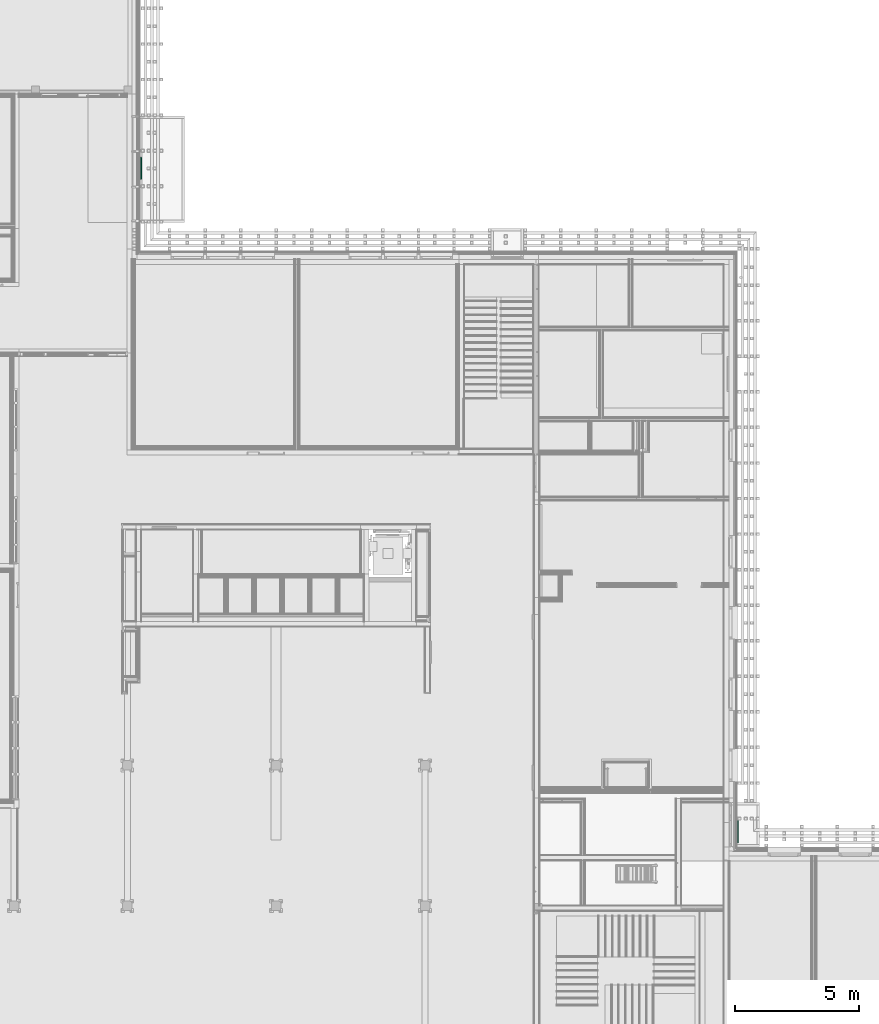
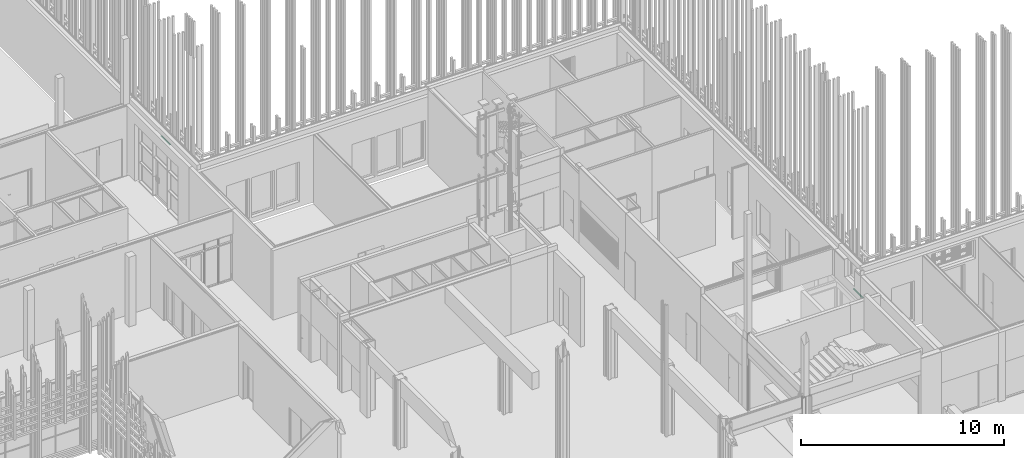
# One storey, part 259 of 260: 2 flow terminals.
"""IFC2X3 building model written with IfcOpenShell, lengths in millimetres."""

from ifc_helpers import new_model, entity, si_unit, converted_unit, derived_unit, money_unit, direction, frame, origin_with_axes, place, context, subcontext, project, spatial, open_shell, faceted_brep, surface_model, source, transform, mapped, type_object, element, save


model = new_model("IFC2X3")

# Units and contexts
model_context = context("Model", 3, precision=0.01, world=origin_with_axes(), true_north=direction((0.0, 1.0)))
body_context = subcontext(model_context, "Body", "Model", "MODEL_VIEW")
ifc_project = project(units=[si_unit("LENGTHUNIT", "METRE", prefix="MILLI"), si_unit("AREAUNIT", "SQUARE_METRE"), si_unit("VOLUMEUNIT", "CUBIC_METRE"), converted_unit("PLANEANGLEUNIT", "DEGREE", entity("IfcPlaneAngleMeasure", 0.0174532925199), si_unit("PLANEANGLEUNIT", "RADIAN"), dimensions=[0, 0, 0, 0, 0, 0, 0]), money_unit("EUR"), converted_unit("TIMEUNIT", "Year", entity("IfcTimeMeasure", 31556926.0), si_unit("TIMEUNIT", "SECOND"), dimensions=[0, 0, 1, 0, 0, 0, 0]), si_unit("MASSUNIT", "GRAM", prefix="KILO"), si_unit("THERMODYNAMICTEMPERATUREUNIT", "DEGREE_CELSIUS"), si_unit("LUMINOUSINTENSITYUNIT", "LUMEN"), si_unit("ENERGYUNIT", "JOULE", prefix="MEGA"), derived_unit("THERMALCONDUCTANCEUNIT", [(si_unit("POWERUNIT", "WATT"), 1), (si_unit("LENGTHUNIT", "METRE"), -1), (si_unit("THERMODYNAMICTEMPERATUREUNIT", "KELVIN"), -1)]), derived_unit("SPECIFICHEATCAPACITYUNIT", [(si_unit("ENERGYUNIT", "JOULE"), 1), (si_unit("MASSUNIT", "GRAM", prefix="KILO"), -1), (si_unit("THERMODYNAMICTEMPERATUREUNIT", "KELVIN"), -1)]), derived_unit("MASSDENSITYUNIT", [(si_unit("MASSUNIT", "GRAM", prefix="KILO"), 1), (si_unit("VOLUMEUNIT", "CUBIC_METRE"), -1)])], contexts=[model_context])

# Site, building, storey
site_placement = place(None, origin_with_axes())
site = spatial("IfcSite", under=ifc_project, at=site_placement, Name="Kolde pst 67a", CompositionType="ELEMENT")
building_placement = place(site_placement, origin_with_axes())
building = spatial("IfcBuilding", under=site, at=building_placement, Name="Riigigümnaasium", CompositionType="ELEMENT")
storey_placement = place(building_placement, origin_with_axes())
storey = spatial("IfcBuildingStorey", under=building, at=storey_placement, Name="1. korrus", CompositionType="ELEMENT", Elevation=0.0)

# Flow terminals
light_fixture_type = type_object("IfcLightFixtureType", Name="Fluorescent Wall Lamp 25", PredefinedType="NOTDEFINED")
shared_shape = source(origin_with_axes(), body_context, "Body", "SurfaceModel", [
    faceted_brep([(2.23517426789e-07, 0.75144626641, -43.3137645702), (10.0, 0.238712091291, -44.2020916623), (10.0, -0.0554958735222, -42.5341171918), (2.23517426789e-07, 0.573529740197, -42.3050895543), (2.23517426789e-07, 1.09962690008, -43.7284351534), (10.0, 0.983608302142, -45.0892361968), (20.0, 0.238712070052, -44.2020917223), (20.0, -0.0554958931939, -42.5341171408), (10.0, -0.0566127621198, -3.96036039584), (2.23517426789e-07, 0.572426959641, -4.21857937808), (2.23517426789e-07, 0.977545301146, -2.19986807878), (2.23517426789e-07, 1.95560602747, -1.36367512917), (2.23517426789e-07, 7.65600668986, -1.36367512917), (2.23517426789e-07, 8.63406749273, -2.19986814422), (2.23517426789e-07, 9.03919358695, -4.2186167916), (2.23517426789e-07, 9.03919358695, -31.3320880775), (2.23517426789e-07, 7.63507425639, -36.351899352), (2.23517426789e-07, 1.61167552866, -43.5416117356), (10.0, 1.83048373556, -44.7802496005), (20.0, 0.983608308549, -45.0892361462), (51.0588235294, 0.238712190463, -44.2020920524), (51.0588235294, -0.0554958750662, -42.5341171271), (20.0, -0.0566127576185, -3.96036036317), (10.0, 0.496104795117, -1.20615979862), (10.0, 1.83048373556, -0.0653326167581), (10.0, 7.78112898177, -0.0653326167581), (10.0, 9.11550792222, -1.20615979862), (10.0, 9.66822583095, -3.96036039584), (10.0, 9.66822583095, -31.6799734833), (10.0, 8.09567972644, -37.3019206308), (20.0, 1.83048376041, -44.7802496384), (51.0588235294, 0.983608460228, -45.0892361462), (856.941176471, 0.238712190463, -44.2020920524), (856.941176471, -0.0554958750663, -42.5341171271), (51.0588235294, -0.0566129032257, -3.96036022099), (20.0, 0.496104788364, -1.20615982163), (20.0, 1.83048376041, -0.065332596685), (20.0, 7.78112896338, -0.065332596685), (20.0, 9.11550793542, -1.20615982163), (20.0, 9.66822580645, -3.96036036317), (20.0, 9.66822580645, -31.6799735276), (20.0, 8.09567972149, -37.3019206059), (51.0588235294, 1.83048387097, -44.7802497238), (856.941176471, 0.983608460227, -45.0892361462), (888.0, 0.238712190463, -44.2020920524), (888.0, -0.0554958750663, -42.5341171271), (856.941176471, -0.0566129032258, -3.96036022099), (51.0588235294, 0.49610494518, -1.20615977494), (51.0588235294, 1.83048387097, -0.065332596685), (51.0588235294, 7.78112903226, -0.065332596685), (51.0588235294, 9.11550795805, -1.20615977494), (51.0588235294, 9.66822580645, -3.96036022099), (51.0588235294, 9.66822580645, -31.6799734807), (51.0588235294, 8.09567975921, -37.3019203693), (856.941176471, 1.83048387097, -44.7802497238), (888.0, 0.983608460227, -45.0892361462), (898.0, 0.238712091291, -44.2020916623), (898.0, -0.0554958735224, -42.5341171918), (888.0, -0.0566129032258, -3.96036022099), (856.941176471, 0.49610494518, -1.20615977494), (856.941176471, 1.83048387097, -0.0653325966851), (856.941176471, 7.78112903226, -0.0653325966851), (856.941176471, 9.11550795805, -1.20615977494), (856.941176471, 9.66822580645, -3.96036022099), (856.941176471, 9.66822580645, -31.6799734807), (856.941176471, 8.09567975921, -37.3019203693), (888.0, 1.83048387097, -44.7802497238), (898.0, 0.983608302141, -45.0892361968), (907.999999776, 0.75144626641, -43.3137645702), (907.999999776, 0.573529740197, -42.3050895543), (898.0, -0.05661276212, -3.96036039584), (888.0, 0.49610494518, -1.20615977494), (888.0, 1.83048387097, -0.0653325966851), (888.0, 7.78112903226, -0.0653325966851), (888.0, 9.11550795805, -1.20615977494), (888.0, 9.66822580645, -3.96036022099), (888.0, 9.66822580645, -31.6799734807), (888.0, 8.09567975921, -37.3019203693), (898.0, 1.83048373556, -44.7802496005), (907.999999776, 1.09962690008, -43.7284351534), (907.999999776, 1.61167552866, -43.5416117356), (907.999999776, 7.63507425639, -36.351899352), (907.999999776, 9.03919358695, -31.3320880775), (907.999999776, 9.03919358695, -4.2186167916), (907.999999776, 8.63406749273, -2.19986814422), (907.999999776, 7.65600668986, -1.36367512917), (907.999999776, 1.95560602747, -1.36367512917), (907.999999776, 0.977545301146, -2.19986807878), (907.999999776, 0.572426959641, -4.21857937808), (898.0, 0.496104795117, -1.20615979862), (898.0, 1.83048373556, -0.0653326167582), (898.0, 7.78112898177, -0.0653326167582), (898.0, 9.11550792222, -1.20615979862), (898.0, 9.66822583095, -3.96036039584), (898.0, 9.66822583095, -31.6799734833), (898.0, 8.09567972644, -37.3019206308)], [[[0, 1, 2, 3]], [[4, 5, 1, 0]], [[1, 6, 7, 2]], [[2, 8, 9, 3]], [[4, 0, 3, 9, 10, 11, 12, 13, 14, 15, 16, 17]], [[5, 4, 17, 18]], [[5, 19, 6, 1]], [[7, 6, 20, 21]], [[8, 2, 7, 22]], [[9, 8, 23, 10]], [[23, 24, 11, 10]], [[12, 11, 24, 25]], [[13, 12, 25, 26]], [[27, 14, 13, 26]], [[14, 27, 28, 15]], [[29, 16, 15, 28]], [[17, 16, 29, 18]], [[18, 30, 19, 5]], [[6, 19, 31, 20]], [[21, 20, 32, 33]], [[22, 7, 21, 34]], [[8, 22, 35, 23]], [[23, 35, 36, 24]], [[24, 36, 37, 25]], [[26, 25, 37, 38]], [[39, 27, 26, 38]], [[40, 28, 27, 39]], [[41, 29, 28, 40]], [[30, 18, 29, 41]], [[19, 30, 42, 31]], [[43, 32, 20, 31]], [[32, 44, 45, 33]], [[34, 21, 33, 46]], [[35, 22, 34, 47]], [[36, 35, 47, 48]], [[37, 36, 48, 49]], [[38, 37, 49, 50]], [[39, 38, 50, 51]], [[40, 39, 51, 52]], [[41, 40, 52, 53]], [[30, 41, 53, 42]], [[31, 42, 54, 43]], [[32, 43, 55, 44]], [[45, 44, 56, 57]], [[45, 58, 46, 33]], [[34, 46, 59, 47]], [[47, 59, 60, 48]], [[60, 61, 49, 48]], [[61, 62, 50, 49]], [[51, 50, 62, 63]], [[52, 51, 63, 64]], [[53, 52, 64, 65]], [[42, 53, 65, 54]], [[55, 43, 54, 66]], [[44, 55, 67, 56]], [[57, 56, 68, 69]], [[58, 45, 57, 70]], [[46, 58, 71, 59]], [[71, 72, 60, 59]], [[61, 60, 72, 73]], [[62, 61, 73, 74]], [[74, 75, 63, 62]], [[76, 64, 63, 75]], [[77, 65, 64, 76]], [[54, 65, 77, 66]], [[55, 66, 78, 67]], [[56, 67, 79, 68]], [[79, 80, 81, 82, 83, 84, 85, 86, 87, 88, 69, 68]], [[70, 57, 69, 88]], [[71, 58, 70, 89]], [[72, 71, 89, 90]], [[73, 72, 90, 91]], [[74, 73, 91, 92]], [[75, 74, 92, 93]], [[76, 75, 93, 94]], [[77, 76, 94, 95]], [[66, 77, 95, 78]], [[67, 78, 80, 79]], [[80, 78, 95, 81]], [[95, 94, 82, 81]], [[94, 93, 83, 82]], [[83, 93, 92, 84]], [[85, 84, 92, 91]], [[86, 85, 91, 90]], [[90, 89, 87, 86]], [[70, 88, 87, 89]]]),
    faceted_brep([(10.0, 34.3597091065, -27.0838408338), (10.0, 35.0415462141, -31.3059233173), (20.0, 35.0415462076, -31.3059233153), (20.0, 34.3597090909, -27.083840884), (2.23517426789e-07, 35.5009438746, -30.4056722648), (2.23517426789e-07, 34.9269818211, -26.8515753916), (10.0, 36.7592421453, -33.4981020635), (20.0, 36.7592421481, -33.4981020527), (888.0, 35.0415462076, -31.3059233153), (888.0, 34.3597090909, -27.083840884), (10.0, 34.3597091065, -6.55704529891), (20.0, 34.3597090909, -6.55704530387), (2.23517426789e-07, 36.9467850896, -32.2509012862), (2.23517426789e-07, 34.9269818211, -6.81530168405), (2.23517426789e-07, 35.6246325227, -2.960419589), (2.23517426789e-07, 37.3089424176, -1.3636446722), (2.23517426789e-07, 66.1308860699, -1.35586521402), (2.23517426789e-07, 68.304242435, -4.16886775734), (2.23517426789e-07, 77.099710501, -37.7314725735), (2.23517426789e-07, 77.383536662, -41.7010662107), (2.23517426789e-07, 76.4666485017, -44.8160661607), (2.23517426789e-07, 74.7524015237, -45.7053852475), (10.0, 74.7722181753, -47.026382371), (20.0, 74.7722181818, -47.0263823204), (888.0, 36.7592421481, -33.4981020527), (898.0, 35.0415462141, -31.3059233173), (898.0, 34.3597091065, -27.0838408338), (888.0, 34.3597090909, -6.55704530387), (10.0, 35.1904607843, -1.96671125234), (20.0, 35.1904607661, -1.9667112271), (10.0, 37.1960727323, -0.0653326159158), (10.0, 66.2801454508, -0.0574824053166), (10.0, 68.7137454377, -3.20732154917), (10.0, 77.642009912, -37.2766638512), (10.0, 77.9796917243, -41.9994828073), (10.0, 76.8114341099, -45.9684755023), (20.0, 76.811434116, -45.968475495), (20.0, 34.8645818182, -20.6440618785), (20.0, 34.8724148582, -26.6697671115), (20.0, 35.368611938, -30.3946225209), (20.0, 36.8386909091, -32.3551116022), (20.0, 74.8520388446, -45.8779044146), (20.0, 76.5254050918, -45.0073263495), (20.0, 77.4835265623, -41.7489044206), (20.0, 77.2058181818, -37.8730674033), (20.0, 70.2113454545, -11.1921281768), (888.0, 36.8386909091, -32.3551116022), (898.0, 36.7592421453, -33.4981020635), (907.999999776, 35.5009438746, -30.4056722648), (907.999999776, 34.9269818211, -26.8515753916), (898.0, 34.3597091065, -6.55704529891), (888.0, 35.1904607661, -1.9667112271), (20.0, 37.1960727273, -0.065332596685), (20.0, 66.2801454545, -0.0574823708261), (20.0, 68.7137454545, -3.20732154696), (20.0, 77.6420099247, -37.2766638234), (20.0, 77.9796917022, -41.9994827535), (888.0, 76.811434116, -45.968475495), (888.0, 74.7722181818, -47.0263823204), (888.0, 34.8645818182, -20.6440618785), (888.0, 34.8724148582, -26.6697671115), (888.0, 35.368611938, -30.3946225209), (888.0, 74.8520388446, -45.8779044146), (888.0, 76.5254050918, -45.0073263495), (888.0, 77.4835265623, -41.7489044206), (888.0, 77.2058181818, -37.8730674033), (888.0, 70.2113454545, -11.1921281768), (898.0, 74.7722181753, -47.026382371), (907.999999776, 36.9467850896, -32.2509012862), (907.999999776, 74.7524015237, -45.7053852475), (907.999999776, 76.4666485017, -44.8160661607), (907.999999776, 77.383536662, -41.7010662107), (907.999999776, 77.099710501, -37.7314725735), (907.999999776, 68.304242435, -4.16886775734), (907.999999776, 66.1308860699, -1.35586521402), (907.999999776, 37.3089424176, -1.36364467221), (907.999999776, 35.6246325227, -2.960419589), (907.999999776, 34.9269818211, -6.81530168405), (898.0, 35.1904607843, -1.96671125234), (888.0, 37.1960727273, -0.0653325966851), (888.0, 66.2801454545, -0.0574823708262), (888.0, 68.7137454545, -3.20732154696), (888.0, 77.6420099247, -37.2766638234), (888.0, 77.9796917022, -41.9994827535), (898.0, 76.8114341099, -45.9684755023), (898.0, 77.9796917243, -41.9994828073), (898.0, 77.642009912, -37.2766638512), (898.0, 68.7137454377, -3.20732154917), (898.0, 66.2801454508, -0.0574824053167), (898.0, 37.1960727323, -0.0653326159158)], [[[0, 1, 2, 3]], [[4, 1, 0, 5]], [[1, 6, 7, 2]], [[3, 2, 8, 9]], [[10, 0, 3, 11]], [[1, 4, 12, 6]], [[13, 5, 0, 10]], [[4, 5, 13, 14, 15, 16, 17, 18, 19, 20, 21, 12]], [[6, 22, 23, 7]], [[2, 7, 24, 8]], [[9, 8, 25, 26]], [[11, 3, 9, 27]], [[28, 10, 11, 29]], [[21, 22, 6, 12]], [[13, 10, 28, 14]], [[14, 28, 30, 15]], [[16, 15, 30, 31]], [[32, 17, 16, 31]], [[33, 18, 17, 32]], [[34, 19, 18, 33]], [[19, 34, 35, 20]], [[22, 21, 20, 35]], [[22, 35, 36, 23]], [[37, 38, 39, 40, 7, 23, 41, 42, 43, 44, 45]], [[7, 40, 46, 24]], [[8, 24, 47, 25]], [[25, 48, 49, 26]], [[27, 9, 26, 50]], [[29, 11, 27, 51]], [[30, 28, 29, 52]], [[31, 30, 52, 53]], [[32, 31, 53, 54]], [[33, 32, 54, 55]], [[34, 33, 55, 56]], [[35, 34, 56, 36]], [[23, 36, 57, 58]], [[38, 37, 59, 60]], [[39, 38, 60, 61]], [[40, 39, 61, 46]], [[41, 23, 58, 62]], [[42, 41, 62, 63]], [[43, 42, 63, 64]], [[44, 43, 64, 65]], [[45, 44, 65, 66]], [[37, 45, 66, 59]], [[63, 62, 58, 24, 46, 61, 60, 59, 66, 65, 64]], [[47, 24, 58, 67]], [[25, 47, 68, 48]], [[48, 68, 69, 70, 71, 72, 73, 74, 75, 76, 77, 49]], [[50, 26, 49, 77]], [[51, 27, 50, 78]], [[52, 29, 51, 79]], [[52, 79, 80, 53]], [[54, 53, 80, 81]], [[54, 81, 82, 55]], [[56, 55, 82, 83]], [[57, 36, 56, 83]], [[58, 57, 84, 67]], [[68, 47, 67, 69]], [[67, 84, 70, 69]], [[70, 84, 85, 71]], [[85, 86, 72, 71]], [[72, 86, 87, 73]], [[87, 88, 74, 73]], [[88, 89, 75, 74]], [[78, 76, 75, 89]], [[78, 50, 77, 76]], [[79, 51, 78, 89]], [[80, 79, 89, 88]], [[81, 80, 88, 87]], [[82, 81, 87, 86]], [[83, 82, 86, 85]], [[57, 83, 85, 84]]]),
    faceted_brep([(20.0, 34.32, -29.8683066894), (20.0, 9.75, -29.8683066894), (20.0, 9.75, -7.75065963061), (20.0, 34.32, -7.75065963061), (51.0588235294, 34.32, -29.8683066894), (51.0588235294, 9.75, -29.8683066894), (51.0588235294, 9.75, -7.75065963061), (51.0588235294, 34.32, -7.75065963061)], [[[0, 1, 2, 3]], [[1, 0, 4, 5]], [[2, 1, 5, 6]], [[3, 2, 6, 7]], [[0, 3, 7, 4]], [[6, 5, 4, 7]]]),
    faceted_brep([(888.0, 9.75, -29.8683066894), (856.941176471, 9.75, -29.8683066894), (856.941176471, 34.32, -29.8683066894), (888.0, 34.32, -29.8683066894), (888.0, 9.75, -7.75065963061), (856.941176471, 9.75, -7.75065963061), (856.941176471, 34.32, -7.75065963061), (888.0, 34.32, -7.75065963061)], [[[0, 1, 2, 3]], [[1, 0, 4, 5]], [[2, 1, 5, 6]], [[3, 2, 6, 7]], [[0, 3, 7, 4]], [[5, 4, 7, 6]]]),
    surface_model("IfcShellBasedSurfaceModel", [(43.2380952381, 36.777, -33.5033660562), (43.2380952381, 43.4885713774, -14.6631216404), (43.2380952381, 81.4683313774, -28.1928755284), (43.2380952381, 74.75676, -47.0331199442)], [open_shell([[[0, 1, 2, 3]]])]),
    surface_model("IfcShellBasedSurfaceModel", [(86.4761904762, 36.777, -33.5033660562), (86.4761904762, 43.4885713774, -14.6631216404), (86.4761904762, 81.4683313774, -28.1928755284), (86.4761904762, 74.75676, -47.0331199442)], [open_shell([[[0, 1, 2, 3]]])]),
    surface_model("IfcShellBasedSurfaceModel", [(129.714285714, 36.777, -33.5033660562), (129.714285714, 43.4885713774, -14.6631216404), (129.714285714, 81.4683313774, -28.1928755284), (129.714285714, 74.75676, -47.0331199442)], [open_shell([[[0, 1, 2, 3]]])]),
    surface_model("IfcShellBasedSurfaceModel", [(172.952380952, 36.777, -33.5033660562), (172.952380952, 43.4885713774, -14.6631216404), (172.952380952, 81.4683313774, -28.1928755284), (172.952380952, 74.75676, -47.0331199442)], [open_shell([[[0, 1, 2, 3]]])]),
    surface_model("IfcShellBasedSurfaceModel", [(216.19047619, 36.777, -33.5033660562), (216.19047619, 43.4885713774, -14.6631216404), (216.19047619, 81.4683313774, -28.1928755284), (216.19047619, 74.75676, -47.0331199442)], [open_shell([[[0, 1, 2, 3]]])]),
    surface_model("IfcShellBasedSurfaceModel", [(259.428571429, 36.777, -33.5033660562), (259.428571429, 43.4885713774, -14.6631216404), (259.428571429, 81.4683313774, -28.1928755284), (259.428571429, 74.75676, -47.0331199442)], [open_shell([[[0, 1, 2, 3]]])]),
    surface_model("IfcShellBasedSurfaceModel", [(302.666666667, 36.777, -33.5033660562), (302.666666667, 43.4885713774, -14.6631216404), (302.666666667, 81.4683313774, -28.1928755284), (302.666666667, 74.75676, -47.0331199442)], [open_shell([[[0, 1, 2, 3]]])]),
    surface_model("IfcShellBasedSurfaceModel", [(345.904761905, 36.777, -33.5033660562), (345.904761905, 43.4885713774, -14.6631216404), (345.904761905, 81.4683313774, -28.1928755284), (345.904761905, 74.75676, -47.0331199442)], [open_shell([[[0, 1, 2, 3]]])]),
    surface_model("IfcShellBasedSurfaceModel", [(389.142857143, 36.777, -33.5033660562), (389.142857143, 43.4885713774, -14.6631216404), (389.142857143, 81.4683313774, -28.1928755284), (389.142857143, 74.75676, -47.0331199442)], [open_shell([[[0, 1, 2, 3]]])]),
    surface_model("IfcShellBasedSurfaceModel", [(432.380952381, 36.777, -33.5033660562), (432.380952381, 43.4885713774, -14.6631216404), (432.380952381, 81.4683313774, -28.1928755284), (432.380952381, 74.75676, -47.0331199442)], [open_shell([[[0, 1, 2, 3]]])]),
    surface_model("IfcShellBasedSurfaceModel", [(475.619047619, 36.777, -33.5033660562), (475.619047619, 43.4885713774, -14.6631216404), (475.619047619, 81.4683313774, -28.1928755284), (475.619047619, 74.75676, -47.0331199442)], [open_shell([[[0, 1, 2, 3]]])]),
    surface_model("IfcShellBasedSurfaceModel", [(518.857142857, 36.777, -33.5033660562), (518.857142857, 43.4885713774, -14.6631216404), (518.857142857, 81.4683313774, -28.1928755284), (518.857142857, 74.75676, -47.0331199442)], [open_shell([[[0, 1, 2, 3]]])]),
    surface_model("IfcShellBasedSurfaceModel", [(562.095238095, 36.777, -33.5033660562), (562.095238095, 43.4885713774, -14.6631216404), (562.095238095, 81.4683313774, -28.1928755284), (562.095238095, 74.75676, -47.0331199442)], [open_shell([[[0, 1, 2, 3]]])]),
    surface_model("IfcShellBasedSurfaceModel", [(605.333333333, 36.777, -33.5033660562), (605.333333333, 43.4885713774, -14.6631216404), (605.333333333, 81.4683313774, -28.1928755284), (605.333333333, 74.75676, -47.0331199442)], [open_shell([[[0, 1, 2, 3]]])]),
    surface_model("IfcShellBasedSurfaceModel", [(648.571428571, 36.777, -33.5033660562), (648.571428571, 43.4885713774, -14.6631216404), (648.571428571, 81.4683313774, -28.1928755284), (648.571428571, 74.75676, -47.0331199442)], [open_shell([[[0, 1, 2, 3]]])]),
    surface_model("IfcShellBasedSurfaceModel", [(691.80952381, 36.777, -33.5033660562), (691.80952381, 43.4885713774, -14.6631216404), (691.80952381, 81.4683313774, -28.1928755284), (691.80952381, 74.75676, -47.0331199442)], [open_shell([[[0, 1, 2, 3]]])]),
    surface_model("IfcShellBasedSurfaceModel", [(735.047619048, 36.777, -33.5033660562), (735.047619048, 43.4885713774, -14.6631216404), (735.047619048, 81.4683313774, -28.1928755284), (735.047619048, 74.75676, -47.0331199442)], [open_shell([[[0, 1, 2, 3]]])]),
    surface_model("IfcShellBasedSurfaceModel", [(778.285714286, 36.777, -33.5033660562), (778.285714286, 43.4885713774, -14.6631216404), (778.285714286, 81.4683313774, -28.1928755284), (778.285714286, 74.75676, -47.0331199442)], [open_shell([[[0, 1, 2, 3]]])]),
    surface_model("IfcShellBasedSurfaceModel", [(821.523809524, 36.777, -33.5033660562), (821.523809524, 43.4885713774, -14.6631216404), (821.523809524, 81.4683313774, -28.1928755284), (821.523809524, 74.75676, -47.0331199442)], [open_shell([[[0, 1, 2, 3]]])]),
    surface_model("IfcShellBasedSurfaceModel", [(864.761904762, 36.777, -33.5033660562), (864.761904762, 43.4885713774, -14.6631216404), (864.761904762, 81.4683313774, -28.1928755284), (864.761904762, 74.75676, -47.0331199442)], [open_shell([[[0, 1, 2, 3]]])]),
    faceted_brep([(20.0, 45.1035, -24.8683066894), (20.0, 55.7101017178, -20.4749084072), (888.0, 55.7101017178, -20.4749084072), (888.0, 45.1035, -24.8683066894), (20.0, 34.4968982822, -20.4749084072), (20.0, 30.1035, -9.86830668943), (20.0, 34.4968982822, 0.738295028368), (20.0, 45.1035, 5.13169331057), (20.0, 55.7101017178, 0.738295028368), (20.0, 60.1035, -9.86830668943), (20.0, 45.1035, -22.8683066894), (20.0, 54.2958881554, -19.0606948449), (20.0, 58.1035, -9.86830668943), (20.0, 54.2958881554, -0.675918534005), (20.0, 45.1035, 3.13169331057), (20.0, 35.9111118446, -0.675918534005), (20.0, 32.1035, -9.86830668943), (20.0, 35.9111118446, -19.0606948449), (888.0, 60.1035, -9.86830668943), (888.0, 55.7101017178, 0.738295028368), (888.0, 45.1035, 5.13169331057), (888.0, 34.4968982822, 0.738295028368), (888.0, 30.1035, -9.86830668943), (888.0, 34.4968982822, -20.4749084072), (888.0, 45.1035, -22.8683066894), (888.0, 35.9111118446, -19.0606948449), (888.0, 32.1035, -9.86830668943), (888.0, 35.9111118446, -0.675918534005), (888.0, 45.1035, 3.13169331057), (888.0, 54.2958881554, -0.675918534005), (888.0, 58.1035, -9.86830668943), (888.0, 54.2958881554, -19.0606948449)], [[[0, 1, 2, 3]], [[0, 4, 5, 6, 7, 8, 9, 1], [10, 11, 12, 13, 14, 15, 16, 17]], [[1, 9, 18, 2]], [[3, 2, 18, 19, 20, 21, 22, 23], [24, 25, 26, 27, 28, 29, 30, 31]], [[4, 0, 3, 23]], [[5, 4, 23, 22]], [[6, 5, 22, 21]], [[7, 6, 21, 20]], [[8, 7, 20, 19]], [[9, 8, 19, 18]], [[11, 10, 24, 31]], [[12, 11, 31, 30]], [[13, 12, 30, 29]], [[14, 13, 29, 28]], [[15, 14, 28, 27]], [[16, 15, 27, 26]], [[17, 16, 26, 25]], [[10, 17, 25, 24]]]),
    faceted_brep([(20.0, 56.0235, -24.8683066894), (20.0, 66.6301017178, -20.4749084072), (888.0, 66.6301017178, -20.4749084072), (888.0, 56.0235, -24.8683066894), (20.0, 45.4168982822, -20.4749084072), (20.0, 41.0235, -9.86830668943), (20.0, 45.4168982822, 0.738295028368), (20.0, 56.0235, 5.13169331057), (20.0, 66.6301017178, 0.738295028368), (20.0, 71.0235, -9.86830668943), (20.0, 56.0235, -22.8683066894), (20.0, 65.2158881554, -19.0606948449), (20.0, 69.0235, -9.86830668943), (20.0, 65.2158881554, -0.675918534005), (20.0, 56.0235, 3.13169331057), (20.0, 46.8311118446, -0.675918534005), (20.0, 43.0235, -9.86830668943), (20.0, 46.8311118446, -19.0606948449), (888.0, 71.0235, -9.86830668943), (888.0, 66.6301017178, 0.738295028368), (888.0, 56.0235, 5.13169331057), (888.0, 45.4168982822, 0.738295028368), (888.0, 41.0235, -9.86830668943), (888.0, 45.4168982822, -20.4749084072), (888.0, 56.0235, -22.8683066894), (888.0, 46.8311118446, -19.0606948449), (888.0, 43.0235, -9.86830668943), (888.0, 46.8311118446, -0.675918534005), (888.0, 56.0235, 3.13169331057), (888.0, 65.2158881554, -0.675918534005), (888.0, 69.0235, -9.86830668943), (888.0, 65.2158881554, -19.0606948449)], [[[0, 1, 2, 3]], [[0, 4, 5, 6, 7, 8, 9, 1], [10, 11, 12, 13, 14, 15, 16, 17]], [[1, 9, 18, 2]], [[3, 2, 18, 19, 20, 21, 22, 23], [24, 25, 26, 27, 28, 29, 30, 31]], [[4, 0, 3, 23]], [[5, 4, 23, 22]], [[6, 5, 22, 21]], [[7, 6, 21, 20]], [[8, 7, 20, 19]], [[9, 8, 19, 18]], [[11, 10, 24, 31]], [[12, 11, 31, 30]], [[13, 12, 30, 29]], [[14, 13, 29, 28]], [[15, 14, 28, 27]], [[16, 15, 27, 26]], [[17, 16, 26, 25]], [[10, 17, 25, 24]]]),
    faceted_brep([(20.0, 66.9435, -24.8683066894), (20.0, 77.5501017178, -20.4749084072), (888.0, 77.5501017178, -20.4749084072), (888.0, 66.9435, -24.8683066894), (20.0, 56.3368982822, -20.4749084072), (20.0, 51.9435, -9.86830668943), (20.0, 56.3368982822, 0.738295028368), (20.0, 66.9435, 5.13169331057), (20.0, 77.5501017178, 0.738295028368), (20.0, 81.9435, -9.86830668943), (20.0, 66.9435, -22.8683066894), (20.0, 76.1358881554, -19.0606948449), (20.0, 79.9435, -9.86830668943), (20.0, 76.1358881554, -0.675918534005), (20.0, 66.9435, 3.13169331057), (20.0, 57.7511118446, -0.675918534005), (20.0, 53.9435, -9.86830668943), (20.0, 57.7511118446, -19.0606948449), (888.0, 81.9435, -9.86830668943), (888.0, 77.5501017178, 0.738295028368), (888.0, 66.9435, 5.13169331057), (888.0, 56.3368982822, 0.738295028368), (888.0, 51.9435, -9.86830668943), (888.0, 56.3368982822, -20.4749084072), (888.0, 66.9435, -22.8683066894), (888.0, 57.7511118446, -19.0606948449), (888.0, 53.9435, -9.86830668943), (888.0, 57.7511118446, -0.675918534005), (888.0, 66.9435, 3.13169331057), (888.0, 76.1358881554, -0.675918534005), (888.0, 79.9435, -9.86830668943), (888.0, 76.1358881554, -19.0606948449)], [[[0, 1, 2, 3]], [[0, 4, 5, 6, 7, 8, 9, 1], [10, 11, 12, 13, 14, 15, 16, 17]], [[1, 9, 18, 2]], [[3, 2, 18, 19, 20, 21, 22, 23], [24, 25, 26, 27, 28, 29, 30, 31]], [[4, 0, 3, 23]], [[5, 4, 23, 22]], [[6, 5, 22, 21]], [[7, 6, 21, 20]], [[8, 7, 20, 19]], [[9, 8, 19, 18]], [[11, 10, 24, 31]], [[12, 11, 31, 30]], [[13, 12, 30, 29]], [[14, 13, 29, 28]], [[15, 14, 28, 27]], [[16, 15, 27, 26]], [[17, 16, 26, 25]], [[10, 17, 25, 24]]]),
])
for number, where, z_axis, x_axis in (
    (1, (36752.1397976, 64549.0246394, 3662.0), (0.0, 0.0, 1.0), (0.0, -1.0, 0.0)),
    (2, (60752.0861735, 37879.3585215, 2247.0), (0.0, 0.0, 1.0), (0.0, -1.0, 0.0)),
):
    element("IfcFlowTerminal", number, at=place(storey_placement, frame(where, z_axis=z_axis, x_axis=x_axis)), inside=storey, type_object=light_fixture_type, Name="Fassaadivalgusti", ObjectType="Light Fixture", context=body_context, shape_type="MappedRepresentation", body=[
        mapped(shared_shape, transform((0.0, 0.0, 0.0))),
    ])

save(model, "model.ifc")
